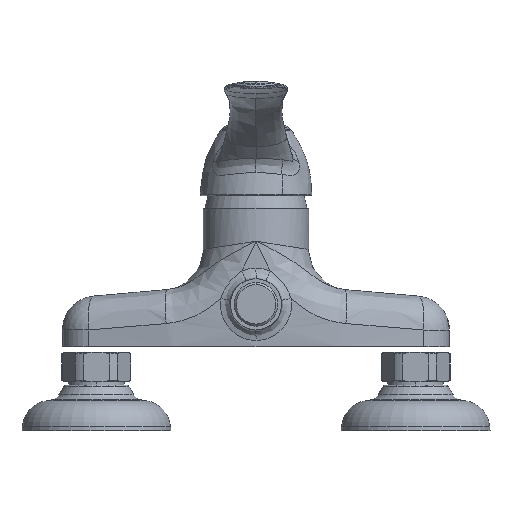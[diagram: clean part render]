
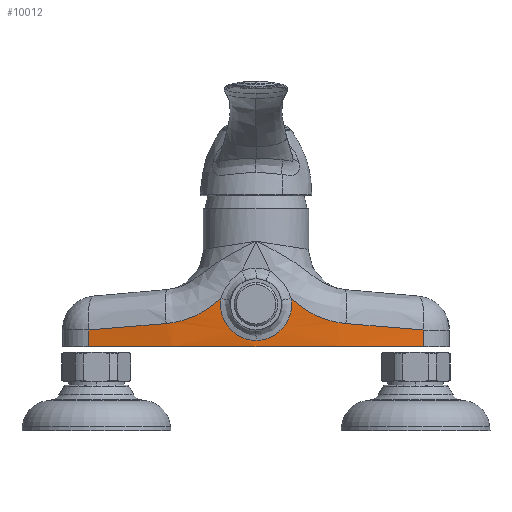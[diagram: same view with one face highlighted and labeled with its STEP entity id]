
A CAD part, front view. The second image highlights one B-rep face of the part: STEP entity #10012.
In plain terms, the highlighted cylindrical face has radius 341.804 mm (diameter 683.607 mm), a partial arc.
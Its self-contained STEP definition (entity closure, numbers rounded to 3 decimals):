
#1145=CARTESIAN_POINT('',(-16.547,-24.349,
22.67));
#1146=CARTESIAN_POINT('',(-16.627,-24.345,
22.161));
#1147=CARTESIAN_POINT('',(-16.74,-24.34,
21.138));
#1148=CARTESIAN_POINT('',(-16.773,-24.338,
19.58));
#1149=CARTESIAN_POINT('',(-16.665,-24.344,
18.022));
#1150=CARTESIAN_POINT('',(-16.415,-24.356,
16.478));
#1151=CARTESIAN_POINT('',(-16.028,-24.374,
14.966));
#1152=CARTESIAN_POINT('',(-15.507,-24.398,
13.499));
#1153=CARTESIAN_POINT('',(-14.856,-24.427,
12.088));
#1154=CARTESIAN_POINT('',(-14.081,-24.46,
10.743));
#1155=CARTESIAN_POINT('',(-13.189,-24.496,
9.478));
#1156=CARTESIAN_POINT('',(-12.19,-24.533,
8.303));
#1157=CARTESIAN_POINT('',(-11.091,-24.571,
7.226));
#1158=CARTESIAN_POINT('',(-9.901,-24.607,
6.257));
#1159=CARTESIAN_POINT('',(-8.633,-24.642,
5.403));
#1160=CARTESIAN_POINT('',(-7.297,-24.673,
4.671));
#1161=CARTESIAN_POINT('',(-5.902,-24.7,
4.065));
#1162=CARTESIAN_POINT('',(-4.459,-24.722,
3.589));
#1163=CARTESIAN_POINT('',(-2.984,-24.738,
3.248));
#1164=CARTESIAN_POINT('',(-1.49,-24.748,
3.045));
#1165=CARTESIAN_POINT('',(-0.497,-24.75,
3.));
#1166=CARTESIAN_POINT('',(0.,-24.75,
3.));
#1168=CARTESIAN_POINT('',(0.,-24.75,
3.));
#1169=CARTESIAN_POINT('',(0.497,-24.75,3.));
#1170=CARTESIAN_POINT('',(1.489,-24.748,3.045));
#1171=CARTESIAN_POINT('',(2.982,-24.738,3.248));
#1172=CARTESIAN_POINT('',(4.456,-24.722,3.588));
#1173=CARTESIAN_POINT('',(5.899,-24.7,4.063));
#1174=CARTESIAN_POINT('',(7.293,-24.673,4.669));
#1175=CARTESIAN_POINT('',(8.629,-24.642,5.4));
#1176=CARTESIAN_POINT('',(9.896,-24.607,6.253));
#1177=CARTESIAN_POINT('',(11.086,-24.571,7.222));
#1178=CARTESIAN_POINT('',(12.185,-24.533,8.297));
#1179=CARTESIAN_POINT('',(13.184,-24.496,9.471));
#1180=CARTESIAN_POINT('',(14.076,-24.46,10.735));
#1181=CARTESIAN_POINT('',(14.851,-24.427,12.079));
#1182=CARTESIAN_POINT('',(15.503,-24.398,13.489));
#1183=CARTESIAN_POINT('',(16.025,-24.374,14.955));
#1184=CARTESIAN_POINT('',(16.413,-24.356,16.465));
#1185=CARTESIAN_POINT('',(16.663,-24.344,18.008));
#1186=CARTESIAN_POINT('',(16.773,-24.338,19.565));
#1187=CARTESIAN_POINT('',(16.741,-24.34,21.122));
#1188=CARTESIAN_POINT('',(16.629,-24.345,22.144));
#1189=CARTESIAN_POINT('',(16.55,-24.349,22.653));
#1191=CARTESIAN_POINT('',(16.55,-24.349,22.653));
#1192=CARTESIAN_POINT('',(17.289,-24.313,21.953));
#1193=CARTESIAN_POINT('',(18.798,-24.235,20.617));
#1194=CARTESIAN_POINT('',(21.15,-24.098,18.8));
#1195=CARTESIAN_POINT('',(23.578,-23.939,17.17));
#1196=CARTESIAN_POINT('',(26.083,-23.757,15.724));
#1197=CARTESIAN_POINT('',(28.657,-23.55,14.46));
#1198=CARTESIAN_POINT('',(31.293,-23.318,13.381));
#1199=CARTESIAN_POINT('',(33.98,-23.06,12.487));
#1200=CARTESIAN_POINT('',(36.708,-22.777,11.781));
#1201=CARTESIAN_POINT('',(39.463,-22.468,11.266));
#1202=CARTESIAN_POINT('',(41.304,-22.246,11.049));
#1203=CARTESIAN_POINT('',(42.227,-22.132,10.972));
#1205=CARTESIAN_POINT('',(42.227,-22.132,10.972));
#1206=CARTESIAN_POINT('',(45.292,-21.75,10.716));
#1207=CARTESIAN_POINT('',(51.411,-20.904,10.206));
#1208=CARTESIAN_POINT('',(60.552,-19.386,9.444));
#1209=CARTESIAN_POINT('',(69.648,-17.622,8.685));
#1210=CARTESIAN_POINT('',(75.678,-16.281,8.182));
#1211=CARTESIAN_POINT('',(78.683,-15.57,7.932));
#1213=DIRECTION('',(0.,0.,1.));
#1214=VECTOR('',#1213,7.946);
#1215=CARTESIAN_POINT('',(-78.683,-15.57,0.));
#1216=LINE('',#1215,#1214);
#1217=CARTESIAN_POINT('',(-42.227,-22.132,
10.986));
#1218=CARTESIAN_POINT('',(-45.292,-21.75,
10.731));
#1219=CARTESIAN_POINT('',(-51.411,-20.904,
10.22));
#1220=CARTESIAN_POINT('',(-60.552,-19.386,
9.458));
#1221=CARTESIAN_POINT('',(-69.648,-17.622,
8.7));
#1222=CARTESIAN_POINT('',(-75.678,-16.281,
8.197));
#1223=CARTESIAN_POINT('',(-78.683,-15.57,
7.946));
#1225=CARTESIAN_POINT('',(-16.547,-24.349,
22.67));
#1226=CARTESIAN_POINT('',(-17.288,-24.313,
21.968));
#1227=CARTESIAN_POINT('',(-18.8,-24.235,20.631));
#1228=CARTESIAN_POINT('',(-21.151,-24.098,
18.814));
#1229=CARTESIAN_POINT('',(-23.579,-23.939,
17.185));
#1230=CARTESIAN_POINT('',(-26.083,-23.757,
15.738));
#1231=CARTESIAN_POINT('',(-28.657,-23.55,
14.475));
#1232=CARTESIAN_POINT('',(-31.292,-23.318,
13.395));
#1233=CARTESIAN_POINT('',(-33.98,-23.06,
12.502));
#1234=CARTESIAN_POINT('',(-36.707,-22.777,
11.796));
#1235=CARTESIAN_POINT('',(-39.462,-22.468,
11.28));
#1236=CARTESIAN_POINT('',(-41.304,-22.246,
11.063));
#1237=CARTESIAN_POINT('',(-42.227,-22.132,
10.986));
#1260=CARTESIAN_POINT('',(-16.547,-24.349,
22.67));
#1514=DIRECTION('',(0.,0.,1.));
#1515=VECTOR('',#1514,7.932);
#1516=CARTESIAN_POINT('',(78.683,-15.57,0.));
#1517=LINE('',#1516,#1515);
#1541=CARTESIAN_POINT('',(0.,317.054,0.));
#1542=DIRECTION('',(0.,0.,1.));
#1543=DIRECTION('',(-0.23,-0.973,0.));
#1544=AXIS2_PLACEMENT_3D('',#1541,#1542,#1543);
#1555=CARTESIAN_POINT('',(16.55,-24.349,22.653));
#1887=CARTESIAN_POINT('',(-78.683,-15.57,0.));
#1889=VERTEX_POINT('',#1887);
#1890=CARTESIAN_POINT('',(78.683,-15.57,0.));
#1892=VERTEX_POINT('',#1890);
#1938=CARTESIAN_POINT('',(78.683,-15.57,7.932));
#1939=VERTEX_POINT('',#1938);
#1941=VERTEX_POINT('',#1205);
#1950=CARTESIAN_POINT('',(-78.683,-15.57,
7.946));
#1951=VERTEX_POINT('',#1950);
#1952=VERTEX_POINT('',#1217);
#1955=VERTEX_POINT('',#1555);
#1963=VERTEX_POINT('',#1260);
#1965=VERTEX_POINT('',#1166);
#9989=CARTESIAN_POINT('',(0.,317.054,0.));
#9990=DIRECTION('',(0.,0.,1.));
#9991=DIRECTION('',(1.,0.,0.));
#9992=AXIS2_PLACEMENT_3D('',#9989,#9990,#9991);
#9993=CYLINDRICAL_SURFACE('',#9992,341.804);
#9995=ORIENTED_EDGE('',*,*,#9994,.T.);
#9997=ORIENTED_EDGE('',*,*,#9996,.T.);
#9999=ORIENTED_EDGE('',*,*,#9998,.T.);
#10001=ORIENTED_EDGE('',*,*,#10000,.T.);
#10003=ORIENTED_EDGE('',*,*,#10002,.F.);
#10005=ORIENTED_EDGE('',*,*,#10004,.F.);
#10006=ORIENTED_EDGE('',*,*,#9930,.T.);
#10007=ORIENTED_EDGE('',*,*,#9979,.F.);
#10009=ORIENTED_EDGE('',*,*,#10008,.F.);
#10010=EDGE_LOOP('',(#9995,#9997,#9999,#10001,#10003,#10005,#10006,#10007,
#10009));
#10011=FACE_OUTER_BOUND('',#10010,.F.);
#10012=ADVANCED_FACE('',(#10011),#9993,.T.);
#1167=B_SPLINE_CURVE_WITH_KNOTS('',3,(#1145,#1146,#1147,#1148,#1149,#1150,#1151,
#1152,#1153,#1154,#1155,#1156,#1157,#1158,#1159,#1160,#1161,#1162,#1163,#1164,
#1165,#1166),.UNSPECIFIED.,.F.,.F.,(4,1,1,1,1,1,1,1,1,1,1,1,1,1,1,1,1,1,1,4),(
0.,0.053,0.105,0.158,0.211,
0.263,0.316,0.368,0.421,
0.474,0.526,0.579,0.632,
0.684,0.737,0.789,0.842,
0.895,0.947,1.),.UNSPECIFIED.);
#1190=B_SPLINE_CURVE_WITH_KNOTS('',3,(#1168,#1169,#1170,#1171,#1172,#1173,#1174,
#1175,#1176,#1177,#1178,#1179,#1180,#1181,#1182,#1183,#1184,#1185,#1186,#1187,
#1188,#1189),.UNSPECIFIED.,.F.,.F.,(4,1,1,1,1,1,1,1,1,1,1,1,1,1,1,1,1,1,1,4),(
0.,0.053,0.105,0.158,0.211,
0.263,0.316,0.368,0.421,
0.474,0.526,0.579,0.632,
0.684,0.737,0.789,0.842,
0.895,0.947,1.),.UNSPECIFIED.);
#1204=B_SPLINE_CURVE_WITH_KNOTS('',3,(#1191,#1192,#1193,#1194,#1195,#1196,#1197,
#1198,#1199,#1200,#1201,#1202,#1203),.UNSPECIFIED.,.F.,.F.,(4,1,1,1,1,1,1,1,1,1,
4),(0.,0.1,0.2,0.3,0.4,0.5,0.6,0.7,0.8,0.9,1.),
.UNSPECIFIED.);
#1212=B_SPLINE_CURVE_WITH_KNOTS('',3,(#1205,#1206,#1207,#1208,#1209,#1210,
#1211),.UNSPECIFIED.,.F.,.F.,(4,1,1,1,4),(0.,0.25,0.5,0.75,1.),
.UNSPECIFIED.);
#1224=B_SPLINE_CURVE_WITH_KNOTS('',3,(#1217,#1218,#1219,#1220,#1221,#1222,
#1223),.UNSPECIFIED.,.F.,.F.,(4,1,1,1,4),(0.,0.25,0.5,0.75,1.),
.UNSPECIFIED.);
#1238=B_SPLINE_CURVE_WITH_KNOTS('',3,(#1225,#1226,#1227,#1228,#1229,#1230,#1231,
#1232,#1233,#1234,#1235,#1236,#1237),.UNSPECIFIED.,.F.,.F.,(4,1,1,1,1,1,1,1,1,1,
4),(0.,0.1,0.2,0.3,0.4,0.5,0.6,0.7,0.8,0.9,1.),
.UNSPECIFIED.);
#1545=CIRCLE('',#1544,341.804);
#9930=EDGE_CURVE('',#1889,#1951,#1216,.T.);
#9979=EDGE_CURVE('',#1952,#1951,#1224,.T.);
#9994=EDGE_CURVE('',#1963,#1965,#1167,.T.);
#9996=EDGE_CURVE('',#1965,#1955,#1190,.T.);
#9998=EDGE_CURVE('',#1955,#1941,#1204,.T.);
#10000=EDGE_CURVE('',#1941,#1939,#1212,.T.);
#10002=EDGE_CURVE('',#1892,#1939,#1517,.T.);
#10004=EDGE_CURVE('',#1889,#1892,#1545,.T.);
#10008=EDGE_CURVE('',#1963,#1952,#1238,.T.);
